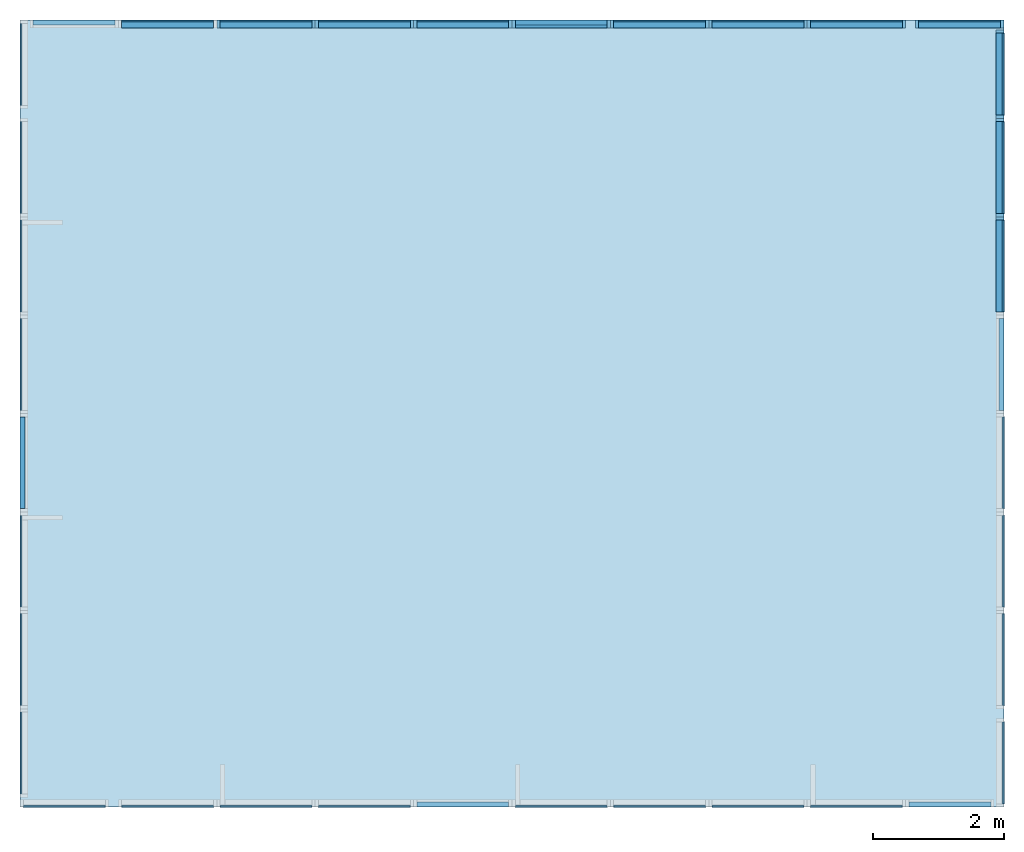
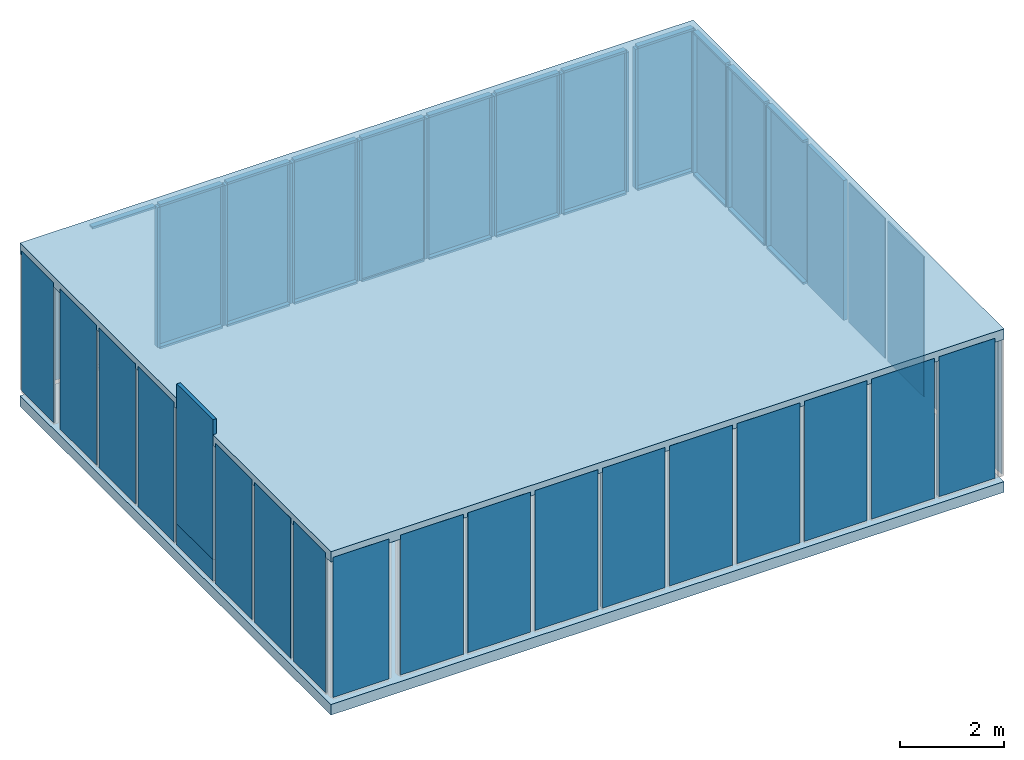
# One storey, part 2 of 2: 45 members, 37 plates, 2 slabs.
"""IFC4 building model written with IfcOpenShell, lengths in metres."""

from ifc_helpers import new_model, si_unit, frame, origin_with_axes, place, context, subcontext, project, spatial, indexed_curve, outline, extrude, material, element, save


model = new_model("IFC4")

# Units and contexts
model_context_1 = context("Model", 3, precision=1e-05, world=origin_with_axes())
model_context_2 = context("Model", 3, precision=1e-05, world=origin_with_axes())
body_context_1 = subcontext(model_context_1, "Body", "Model", "MODEL_VIEW")
body_context_2 = subcontext(model_context_2, "Body", "Model", "MODEL_VIEW")
ifc_project = project(units=[si_unit("AREAUNIT", "SQUARE_METRE"), si_unit("VOLUMEUNIT", "CUBIC_METRE"), si_unit("LENGTHUNIT", "METRE")], contexts=[model_context_1])

# Site, building, storey
site = spatial("IfcSite", under=ifc_project, Name="Synthetic Site")
building = spatial("IfcBuilding", under=site, Name="Complex Tower")
storey_placement = place(None, frame((0.0, 0.0, 41.4), z_axis=(0.0, 0.0, 1.0), x_axis=(1.0, 0.0, 0.0)))
storey = spatial("IfcBuildingStorey", under=building, at=storey_placement, Name="L12", Elevation=41.4)

# Members
ifc_material_1 = material(Name="Aluminium")
member_placement = place(storey_placement, frame((21.0, 11.950000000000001, 0.14999999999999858), z_axis=(0.0, 0.0, 1.0), x_axis=(6.123233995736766e-17, 1.0, 0.0)))
element("IfcMember", 1, at=member_placement, inside=storey, material=ifc_material_1, Name="CT-L12-E-006-MR", PredefinedType="MULLION", context=body_context_1, shape_type="SweptSolid", body=[
    extrude(outline(indexed_curve([(0.0, 0.0), (0.0, 0.12), (0.05, 0.12), (0.05, 0.0), (0.0, 0.0)], self_intersect=False)), origin_with_axes(), (0.0, 0.0, 1.0), 3.3000000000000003),
])
for number, where, z_axis, x_axis, name in (
    (2, (21.0, 10.55, 0.10000000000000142), (0.0, 0.0, 1.0), (6.123233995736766e-17, 1.0, 0.0), "CT-L12-E-006-FB"),
    (3, (21.0, 10.55, 3.4499999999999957), (0.0, 0.0, 1.0), (6.123233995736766e-17, 1.0, 0.0), "CT-L12-E-006-FT"),
):
    element("IfcMember", number, at=place(storey_placement, frame(where, z_axis=z_axis, x_axis=x_axis)), inside=storey, material=ifc_material_1, Name=name, PredefinedType="MULLION", context=body_context_1, shape_type="SweptSolid", body=[
        extrude(outline(indexed_curve([(0.0, 0.0), (0.0, 0.12), (1.4, 0.12), (1.4, 0.0), (0.0, 0.0)], self_intersect=False)), origin_with_axes(), (0.0, 0.0, 1.0), 0.05),
    ])
for number, where, z_axis, x_axis, name in (
    (4, (21.0, 12.0, 0.14999999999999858), (0.0, 0.0, 1.0), (6.123233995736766e-17, 1.0, 0.0), "CT-L12-E-007-ML"),
    (5, (21.0, 13.450000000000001, 0.14999999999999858), (0.0, 0.0, 1.0), (6.123233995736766e-17, 1.0, 0.0), "CT-L12-E-007-MR"),
):
    element("IfcMember", number, at=place(storey_placement, frame(where, z_axis=z_axis, x_axis=x_axis)), inside=storey, material=ifc_material_1, Name=name, PredefinedType="MULLION", context=body_context_1, shape_type="SweptSolid", body=[
        extrude(outline(indexed_curve([(0.0, 0.0), (0.0, 0.12), (0.05, 0.12), (0.05, 0.0), (0.0, 0.0)], self_intersect=False)), origin_with_axes(), (0.0, 0.0, 1.0), 3.3000000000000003),
    ])
for number, where, z_axis, x_axis, name in (
    (6, (21.0, 12.05, 0.10000000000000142), (0.0, 0.0, 1.0), (6.123233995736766e-17, 1.0, 0.0), "CT-L12-E-007-FB"),
    (7, (21.0, 12.05, 3.4499999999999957), (0.0, 0.0, 1.0), (6.123233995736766e-17, 1.0, 0.0), "CT-L12-E-007-FT"),
):
    element("IfcMember", number, at=place(storey_placement, frame(where, z_axis=z_axis, x_axis=x_axis)), inside=storey, material=ifc_material_1, Name=name, PredefinedType="MULLION", context=body_context_1, shape_type="SweptSolid", body=[
        extrude(outline(indexed_curve([(0.0, 0.0), (0.0, 0.12), (1.4, 0.12), (1.4, 0.0), (0.0, 0.0)], self_intersect=False)), origin_with_axes(), (0.0, 0.0, 1.0), 0.05),
    ])
for number, where, z_axis, x_axis, name in (
    (8, (21.0, 13.5, 0.14999999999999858), (0.0, 0.0, 1.0), (6.123233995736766e-17, 1.0, 0.0), "CT-L12-E-008-ML"),
    (9, (21.0, 14.8, 0.14999999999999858), (0.0, 0.0, 1.0), (6.123233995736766e-17, 1.0, 0.0), "CT-L12-E-008-MR"),
):
    element("IfcMember", number, at=place(storey_placement, frame(where, z_axis=z_axis, x_axis=x_axis)), inside=storey, material=ifc_material_1, Name=name, PredefinedType="MULLION", context=body_context_1, shape_type="SweptSolid", body=[
        extrude(outline(indexed_curve([(0.0, 0.0), (0.0, 0.12), (0.05, 0.12), (0.05, 0.0), (0.0, 0.0)], self_intersect=False)), origin_with_axes(), (0.0, 0.0, 1.0), 3.3000000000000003),
    ])
for number, where, z_axis, x_axis, name in (
    (10, (21.0, 13.55, 0.10000000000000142), (0.0, 0.0, 1.0), (6.123233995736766e-17, 1.0, 0.0), "CT-L12-E-008-FB"),
    (11, (21.0, 13.55, 3.4499999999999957), (0.0, 0.0, 1.0), (6.123233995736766e-17, 1.0, 0.0), "CT-L12-E-008-FT"),
):
    element("IfcMember", number, at=place(storey_placement, frame(where, z_axis=z_axis, x_axis=x_axis)), inside=storey, material=ifc_material_1, Name=name, PredefinedType="MULLION", context=body_context_1, shape_type="SweptSolid", body=[
        extrude(outline(indexed_curve([(0.0, 0.0), (0.0, 0.12), (1.25, 0.12), (1.25, 0.0), (0.0, 0.0)], self_intersect=False)), origin_with_axes(), (0.0, 0.0, 1.0), 0.05),
    ])
for number, where, z_axis, x_axis, name in (
    (12, (21.0, 15.0, 0.14999999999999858), (0.0, 0.0, 1.0), (-1.0, 1.2246467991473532e-16, 0.0), "CT-L12-N-001-ML"),
    (13, (19.7, 15.0, 0.14999999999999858), (0.0, 0.0, 1.0), (-1.0, 1.2246467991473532e-16, 0.0), "CT-L12-N-001-MR"),
):
    element("IfcMember", number, at=place(storey_placement, frame(where, z_axis=z_axis, x_axis=x_axis)), inside=storey, material=ifc_material_1, Name=name, PredefinedType="MULLION", context=body_context_1, shape_type="SweptSolid", body=[
        extrude(outline(indexed_curve([(0.0, 0.0), (0.0, 0.12), (0.05, 0.12), (0.05, 0.0), (0.0, 0.0)], self_intersect=False)), origin_with_axes(), (0.0, 0.0, 1.0), 3.3000000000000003),
    ])
for number, where, z_axis, x_axis, name in (
    (14, (20.95, 15.0, 0.10000000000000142), (0.0, 0.0, 1.0), (-1.0, 1.2246467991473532e-16, 0.0), "CT-L12-N-001-FB"),
    (15, (20.95, 15.0, 3.4499999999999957), (0.0, 0.0, 1.0), (-1.0, 1.2246467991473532e-16, 0.0), "CT-L12-N-001-FT"),
):
    element("IfcMember", number, at=place(storey_placement, frame(where, z_axis=z_axis, x_axis=x_axis)), inside=storey, material=ifc_material_1, Name=name, PredefinedType="MULLION", context=body_context_1, shape_type="SweptSolid", body=[
        extrude(outline(indexed_curve([(0.0, 0.0), (0.0, 0.12), (1.25, 0.12), (1.25, 0.0), (0.0, 0.0)], self_intersect=False)), origin_with_axes(), (0.0, 0.0, 1.0), 0.05),
    ])
for number, where, z_axis, x_axis, name in (
    (16, (19.5, 15.0, 0.14999999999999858), (0.0, 0.0, 1.0), (-1.0, 1.2246467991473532e-16, 0.0), "CT-L12-N-002-ML"),
    (17, (18.05, 15.0, 0.14999999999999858), (0.0, 0.0, 1.0), (-1.0, 1.2246467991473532e-16, 0.0), "CT-L12-N-002-MR"),
):
    element("IfcMember", number, at=place(storey_placement, frame(where, z_axis=z_axis, x_axis=x_axis)), inside=storey, material=ifc_material_1, Name=name, PredefinedType="MULLION", context=body_context_1, shape_type="SweptSolid", body=[
        extrude(outline(indexed_curve([(0.0, 0.0), (0.0, 0.12), (0.05, 0.12), (0.05, 0.0), (0.0, 0.0)], self_intersect=False)), origin_with_axes(), (0.0, 0.0, 1.0), 3.3000000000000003),
    ])
for number, where, z_axis, x_axis, name in (
    (18, (19.45, 15.0, 0.10000000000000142), (0.0, 0.0, 1.0), (-1.0, 1.2246467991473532e-16, 0.0), "CT-L12-N-002-FB"),
    (19, (19.45, 15.0, 3.4499999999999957), (0.0, 0.0, 1.0), (-1.0, 1.2246467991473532e-16, 0.0), "CT-L12-N-002-FT"),
):
    element("IfcMember", number, at=place(storey_placement, frame(where, z_axis=z_axis, x_axis=x_axis)), inside=storey, material=ifc_material_1, Name=name, PredefinedType="MULLION", context=body_context_1, shape_type="SweptSolid", body=[
        extrude(outline(indexed_curve([(0.0, 0.0), (0.0, 0.12), (1.4, 0.12), (1.4, 0.0), (0.0, 0.0)], self_intersect=False)), origin_with_axes(), (0.0, 0.0, 1.0), 0.05),
    ])
for number, where, z_axis, x_axis, name in (
    (20, (18.0, 15.0, 0.14999999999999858), (0.0, 0.0, 1.0), (-1.0, 1.2246467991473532e-16, 0.0), "CT-L12-N-003-ML"),
    (21, (16.55, 15.0, 0.14999999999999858), (0.0, 0.0, 1.0), (-1.0, 1.2246467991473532e-16, 0.0), "CT-L12-N-003-MR"),
):
    element("IfcMember", number, at=place(storey_placement, frame(where, z_axis=z_axis, x_axis=x_axis)), inside=storey, material=ifc_material_1, Name=name, PredefinedType="MULLION", context=body_context_1, shape_type="SweptSolid", body=[
        extrude(outline(indexed_curve([(0.0, 0.0), (0.0, 0.12), (0.05, 0.12), (0.05, 0.0), (0.0, 0.0)], self_intersect=False)), origin_with_axes(), (0.0, 0.0, 1.0), 3.3000000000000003),
    ])
for number, where, z_axis, x_axis, name in (
    (22, (17.95, 15.0, 0.10000000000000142), (0.0, 0.0, 1.0), (-1.0, 1.2246467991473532e-16, 0.0), "CT-L12-N-003-FB"),
    (23, (17.95, 15.0, 3.4499999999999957), (0.0, 0.0, 1.0), (-1.0, 1.2246467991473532e-16, 0.0), "CT-L12-N-003-FT"),
):
    element("IfcMember", number, at=place(storey_placement, frame(where, z_axis=z_axis, x_axis=x_axis)), inside=storey, material=ifc_material_1, Name=name, PredefinedType="MULLION", context=body_context_1, shape_type="SweptSolid", body=[
        extrude(outline(indexed_curve([(0.0, 0.0), (0.0, 0.12), (1.4, 0.12), (1.4, 0.0), (0.0, 0.0)], self_intersect=False)), origin_with_axes(), (0.0, 0.0, 1.0), 0.05),
    ])
for number, where, z_axis, x_axis, name in (
    (24, (16.5, 15.0, 0.14999999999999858), (0.0, 0.0, 1.0), (-1.0, 1.2246467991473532e-16, 0.0), "CT-L12-N-004-ML"),
    (25, (15.049999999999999, 15.0, 0.14999999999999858), (0.0, 0.0, 1.0), (-1.0, 1.2246467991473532e-16, 0.0), "CT-L12-N-004-MR"),
):
    element("IfcMember", number, at=place(storey_placement, frame(where, z_axis=z_axis, x_axis=x_axis)), inside=storey, material=ifc_material_1, Name=name, PredefinedType="MULLION", context=body_context_1, shape_type="SweptSolid", body=[
        extrude(outline(indexed_curve([(0.0, 0.0), (0.0, 0.12), (0.05, 0.12), (0.05, 0.0), (0.0, 0.0)], self_intersect=False)), origin_with_axes(), (0.0, 0.0, 1.0), 3.3000000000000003),
    ])
for number, where, z_axis, x_axis, name in (
    (26, (16.45, 15.0, 0.10000000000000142), (0.0, 0.0, 1.0), (-1.0, 1.2246467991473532e-16, 0.0), "CT-L12-N-004-FB"),
    (27, (16.45, 15.0, 3.4499999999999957), (0.0, 0.0, 1.0), (-1.0, 1.2246467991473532e-16, 0.0), "CT-L12-N-004-FT"),
):
    element("IfcMember", number, at=place(storey_placement, frame(where, z_axis=z_axis, x_axis=x_axis)), inside=storey, material=ifc_material_1, Name=name, PredefinedType="MULLION", context=body_context_1, shape_type="SweptSolid", body=[
        extrude(outline(indexed_curve([(0.0, 0.0), (0.0, 0.12), (1.4, 0.12), (1.4, 0.0), (0.0, 0.0)], self_intersect=False)), origin_with_axes(), (0.0, 0.0, 1.0), 0.05),
    ])
for number, where, z_axis, x_axis, name in (
    (28, (15.0, 15.0, 0.14999999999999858), (0.0, 0.0, 1.0), (-1.0, 1.2246467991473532e-16, 0.0), "CT-L12-N-005-ML"),
    (29, (13.549999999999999, 15.0, 0.14999999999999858), (0.0, 0.0, 1.0), (-1.0, 1.2246467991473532e-16, 0.0), "CT-L12-N-005-MR"),
):
    element("IfcMember", number, at=place(storey_placement, frame(where, z_axis=z_axis, x_axis=x_axis)), inside=storey, material=ifc_material_1, Name=name, PredefinedType="MULLION", context=body_context_1, shape_type="SweptSolid", body=[
        extrude(outline(indexed_curve([(0.0, 0.0), (0.0, 0.12), (0.05, 0.12), (0.05, 0.0), (0.0, 0.0)], self_intersect=False)), origin_with_axes(), (0.0, 0.0, 1.0), 3.3000000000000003),
    ])
for number, where, z_axis, x_axis, name in (
    (30, (14.95, 15.0, 0.10000000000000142), (0.0, 0.0, 1.0), (-1.0, 1.2246467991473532e-16, 0.0), "CT-L12-N-005-FB"),
    (31, (14.95, 15.0, 3.4499999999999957), (0.0, 0.0, 1.0), (-1.0, 1.2246467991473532e-16, 0.0), "CT-L12-N-005-FT"),
):
    element("IfcMember", number, at=place(storey_placement, frame(where, z_axis=z_axis, x_axis=x_axis)), inside=storey, material=ifc_material_1, Name=name, PredefinedType="MULLION", context=body_context_1, shape_type="SweptSolid", body=[
        extrude(outline(indexed_curve([(0.0, 0.0), (0.0, 0.12), (1.4, 0.12), (1.4, 0.0), (0.0, 0.0)], self_intersect=False)), origin_with_axes(), (0.0, 0.0, 1.0), 0.05),
    ])
for number, where, z_axis, x_axis, name in (
    (32, (13.5, 15.000000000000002, 0.14999999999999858), (0.0, 0.0, 1.0), (-1.0, 1.2246467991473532e-16, 0.0), "CT-L12-N-006-ML"),
    (33, (12.049999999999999, 15.000000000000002, 0.14999999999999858), (0.0, 0.0, 1.0), (-1.0, 1.2246467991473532e-16, 0.0), "CT-L12-N-006-MR"),
):
    element("IfcMember", number, at=place(storey_placement, frame(where, z_axis=z_axis, x_axis=x_axis)), inside=storey, material=ifc_material_1, Name=name, PredefinedType="MULLION", context=body_context_1, shape_type="SweptSolid", body=[
        extrude(outline(indexed_curve([(0.0, 0.0), (0.0, 0.12), (0.05, 0.12), (0.05, 0.0), (0.0, 0.0)], self_intersect=False)), origin_with_axes(), (0.0, 0.0, 1.0), 3.3000000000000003),
    ])
for number, where, z_axis, x_axis, name in (
    (34, (13.45, 15.000000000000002, 0.10000000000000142), (0.0, 0.0, 1.0), (-1.0, 1.2246467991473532e-16, 0.0), "CT-L12-N-006-FB"),
    (35, (13.45, 15.000000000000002, 3.4499999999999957), (0.0, 0.0, 1.0), (-1.0, 1.2246467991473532e-16, 0.0), "CT-L12-N-006-FT"),
):
    element("IfcMember", number, at=place(storey_placement, frame(where, z_axis=z_axis, x_axis=x_axis)), inside=storey, material=ifc_material_1, Name=name, PredefinedType="MULLION", context=body_context_1, shape_type="SweptSolid", body=[
        extrude(outline(indexed_curve([(0.0, 0.0), (0.0, 0.12), (1.4, 0.12), (1.4, 0.0), (0.0, 0.0)], self_intersect=False)), origin_with_axes(), (0.0, 0.0, 1.0), 0.05),
    ])
for number, where, z_axis, x_axis, name in (
    (36, (12.0, 15.000000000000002, 0.14999999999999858), (0.0, 0.0, 1.0), (-1.0, 1.2246467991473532e-16, 0.0), "CT-L12-N-007-ML"),
    (37, (10.549999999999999, 15.000000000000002, 0.14999999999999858), (0.0, 0.0, 1.0), (-1.0, 1.2246467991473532e-16, 0.0), "CT-L12-N-007-MR"),
):
    element("IfcMember", number, at=place(storey_placement, frame(where, z_axis=z_axis, x_axis=x_axis)), inside=storey, material=ifc_material_1, Name=name, PredefinedType="MULLION", context=body_context_1, shape_type="SweptSolid", body=[
        extrude(outline(indexed_curve([(0.0, 0.0), (0.0, 0.12), (0.05, 0.12), (0.05, 0.0), (0.0, 0.0)], self_intersect=False)), origin_with_axes(), (0.0, 0.0, 1.0), 3.3000000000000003),
    ])
for number, where, z_axis, x_axis, name in (
    (38, (11.95, 15.000000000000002, 0.10000000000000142), (0.0, 0.0, 1.0), (-1.0, 1.2246467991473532e-16, 0.0), "CT-L12-N-007-FB"),
    (39, (11.95, 15.000000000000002, 3.4499999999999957), (0.0, 0.0, 1.0), (-1.0, 1.2246467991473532e-16, 0.0), "CT-L12-N-007-FT"),
):
    element("IfcMember", number, at=place(storey_placement, frame(where, z_axis=z_axis, x_axis=x_axis)), inside=storey, material=ifc_material_1, Name=name, PredefinedType="MULLION", context=body_context_1, shape_type="SweptSolid", body=[
        extrude(outline(indexed_curve([(0.0, 0.0), (0.0, 0.12), (1.4, 0.12), (1.4, 0.0), (0.0, 0.0)], self_intersect=False)), origin_with_axes(), (0.0, 0.0, 1.0), 0.05),
    ])
for number, where, z_axis, x_axis, name in (
    (40, (10.5, 15.000000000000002, 0.14999999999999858), (0.0, 0.0, 1.0), (-1.0, 1.2246467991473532e-16, 0.0), "CT-L12-N-008-ML"),
    (41, (9.049999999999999, 15.000000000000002, 0.14999999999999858), (0.0, 0.0, 1.0), (-1.0, 1.2246467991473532e-16, 0.0), "CT-L12-N-008-MR"),
):
    element("IfcMember", number, at=place(storey_placement, frame(where, z_axis=z_axis, x_axis=x_axis)), inside=storey, material=ifc_material_1, Name=name, PredefinedType="MULLION", context=body_context_1, shape_type="SweptSolid", body=[
        extrude(outline(indexed_curve([(0.0, 0.0), (0.0, 0.12), (0.05, 0.12), (0.05, 0.0), (0.0, 0.0)], self_intersect=False)), origin_with_axes(), (0.0, 0.0, 1.0), 3.3000000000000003),
    ])
for number, where, z_axis, x_axis, name in (
    (42, (10.45, 15.000000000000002, 0.10000000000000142), (0.0, 0.0, 1.0), (-1.0, 1.2246467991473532e-16, 0.0), "CT-L12-N-008-FB"),
    (43, (10.45, 15.000000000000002, 3.4499999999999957), (0.0, 0.0, 1.0), (-1.0, 1.2246467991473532e-16, 0.0), "CT-L12-N-008-FT"),
    (44, (8.95, 15.000000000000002, 0.10000000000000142), (0.0, 0.0, 1.0), (-1.0, 1.2246467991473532e-16, 0.0), "CT-L12-N-009-FB"),
    (45, (8.95, 15.000000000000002, 3.4499999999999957), (0.0, 0.0, 1.0), (-1.0, 1.2246467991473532e-16, 0.0), "CT-L12-N-009-FT"),
):
    element("IfcMember", number, at=place(storey_placement, frame(where, z_axis=z_axis, x_axis=x_axis)), inside=storey, material=ifc_material_1, Name=name, PredefinedType="MULLION", context=body_context_1, shape_type="SweptSolid", body=[
        extrude(outline(indexed_curve([(0.0, 0.0), (0.0, 0.12), (1.4, 0.12), (1.4, 0.0), (0.0, 0.0)], self_intersect=False)), origin_with_axes(), (0.0, 0.0, 1.0), 0.05),
    ])

# Plates
ifc_material_2 = material(Name="Glass")
plate_1_placement = place(storey_placement, frame((6.05, 3.0, 0.14999999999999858), z_axis=(0.0, 0.0, 1.0), x_axis=(1.0, 0.0, 0.0)))
element("IfcPlate", 46, at=plate_1_placement, inside=storey, material=ifc_material_2, Name="CT-L12-S-001", PredefinedType="CURTAIN_PANEL", context=body_context_1, shape_type="SweptSolid", body=[
    extrude(outline(indexed_curve([(0.0, 0.0), (0.0, 0.028), (1.25, 0.028), (1.25, 0.0), (0.0, 0.0)], self_intersect=False)), origin_with_axes(), (0.0, 0.0, 1.0), 3.3000000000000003),
])
for number, where, z_axis, x_axis, name in (
    (47, (7.55, 3.0, 0.14999999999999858), (0.0, 0.0, 1.0), (1.0, 0.0, 0.0), "CT-L12-S-002"),
    (48, (9.05, 3.0, 0.14999999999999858), (0.0, 0.0, 1.0), (1.0, 0.0, 0.0), "CT-L12-S-003"),
    (49, (10.55, 3.0, 0.14999999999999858), (0.0, 0.0, 1.0), (1.0, 0.0, 0.0), "CT-L12-S-004"),
):
    element("IfcPlate", number, at=place(storey_placement, frame(where, z_axis=z_axis, x_axis=x_axis)), inside=storey, material=ifc_material_2, Name=name, PredefinedType="CURTAIN_PANEL", context=body_context_1, shape_type="SweptSolid", body=[
        extrude(outline(indexed_curve([(0.0, 0.0), (0.0, 0.028), (1.4, 0.028), (1.4, 0.0), (0.0, 0.0)], self_intersect=False)), origin_with_axes(), (0.0, 0.0, 1.0), 3.3000000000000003),
    ])
plate_2_placement = place(storey_placement, frame((12.05, 3.0, 0.14999999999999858), z_axis=(0.0, 0.0, 1.0), x_axis=(1.0, 0.0, 0.0)))
element("IfcPlate", 50, at=plate_2_placement, inside=storey, material=ifc_material_1, Name="CT-L12-S-005", PredefinedType="SHEET", context=body_context_1, shape_type="SweptSolid", body=[
    extrude(outline(indexed_curve([(0.0, 0.0), (0.0, 0.08), (1.4, 0.08), (1.4, 0.0), (0.0, 0.0)], self_intersect=False)), origin_with_axes(), (0.0, 0.0, 1.0), 3.3000000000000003),
])
for number, where, z_axis, x_axis, name in (
    (51, (13.55, 3.0, 0.14999999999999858), (0.0, 0.0, 1.0), (1.0, 0.0, 0.0), "CT-L12-S-006"),
    (52, (15.05, 3.0, 0.14999999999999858), (0.0, 0.0, 1.0), (1.0, 0.0, 0.0), "CT-L12-S-007"),
    (53, (16.55, 3.0, 0.14999999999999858), (0.0, 0.0, 1.0), (1.0, 0.0, 0.0), "CT-L12-S-008"),
    (54, (18.05, 3.0, 0.14999999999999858), (0.0, 0.0, 1.0), (1.0, 0.0, 0.0), "CT-L12-S-009"),
):
    element("IfcPlate", number, at=place(storey_placement, frame(where, z_axis=z_axis, x_axis=x_axis)), inside=storey, material=ifc_material_2, Name=name, PredefinedType="CURTAIN_PANEL", context=body_context_1, shape_type="SweptSolid", body=[
        extrude(outline(indexed_curve([(0.0, 0.0), (0.0, 0.028), (1.4, 0.028), (1.4, 0.0), (0.0, 0.0)], self_intersect=False)), origin_with_axes(), (0.0, 0.0, 1.0), 3.3000000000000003),
    ])
plate_3_placement = place(storey_placement, frame((19.55, 3.0, 0.14999999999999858), z_axis=(0.0, 0.0, 1.0), x_axis=(1.0, 0.0, 0.0)))
element("IfcPlate", 55, at=plate_3_placement, inside=storey, material=ifc_material_1, Name="CT-L12-S-010", PredefinedType="SHEET", context=body_context_1, shape_type="SweptSolid", body=[
    extrude(outline(indexed_curve([(0.0, 0.0), (0.0, 0.08), (1.25, 0.08), (1.25, 0.0), (0.0, 0.0)], self_intersect=False)), origin_with_axes(), (0.0, 0.0, 1.0), 3.3000000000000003),
])
plate_4_placement = place(storey_placement, frame((21.0, 3.05, 0.14999999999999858), z_axis=(0.0, 0.0, 1.0), x_axis=(6.123233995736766e-17, 1.0, 0.0)))
element("IfcPlate", 56, at=plate_4_placement, inside=storey, material=ifc_material_2, Name="CT-L12-E-001", PredefinedType="CURTAIN_PANEL", context=body_context_1, shape_type="SweptSolid", body=[
    extrude(outline(indexed_curve([(0.0, 0.0), (0.0, 0.028), (1.25, 0.028), (1.25, 0.0), (0.0, 0.0)], self_intersect=False)), origin_with_axes(), (0.0, 0.0, 1.0), 3.3000000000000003),
])
for number, where, z_axis, x_axis, name in (
    (57, (21.0, 4.55, 0.14999999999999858), (0.0, 0.0, 1.0), (6.123233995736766e-17, 1.0, 0.0), "CT-L12-E-002"),
    (58, (21.0, 6.05, 0.14999999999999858), (0.0, 0.0, 1.0), (6.123233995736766e-17, 1.0, 0.0), "CT-L12-E-003"),
    (59, (21.0, 7.55, 0.14999999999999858), (0.0, 0.0, 1.0), (6.123233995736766e-17, 1.0, 0.0), "CT-L12-E-004"),
):
    element("IfcPlate", number, at=place(storey_placement, frame(where, z_axis=z_axis, x_axis=x_axis)), inside=storey, material=ifc_material_2, Name=name, PredefinedType="CURTAIN_PANEL", context=body_context_1, shape_type="SweptSolid", body=[
        extrude(outline(indexed_curve([(0.0, 0.0), (0.0, 0.028), (1.4, 0.028), (1.4, 0.0), (0.0, 0.0)], self_intersect=False)), origin_with_axes(), (0.0, 0.0, 1.0), 3.3000000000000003),
    ])
plate_5_placement = place(storey_placement, frame((21.0, 9.05, 0.14999999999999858), z_axis=(0.0, 0.0, 1.0), x_axis=(6.123233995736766e-17, 1.0, 0.0)))
element("IfcPlate", 60, at=plate_5_placement, inside=storey, material=ifc_material_1, Name="CT-L12-E-005", PredefinedType="SHEET", context=body_context_1, shape_type="SweptSolid", body=[
    extrude(outline(indexed_curve([(0.0, 0.0), (0.0, 0.08), (1.4, 0.08), (1.4, 0.0), (0.0, 0.0)], self_intersect=False)), origin_with_axes(), (0.0, 0.0, 1.0), 3.3000000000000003),
])
for number, where, z_axis, x_axis, name in (
    (61, (21.0, 10.55, 0.14999999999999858), (0.0, 0.0, 1.0), (6.123233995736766e-17, 1.0, 0.0), "CT-L12-E-006"),
    (62, (21.0, 12.05, 0.14999999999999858), (0.0, 0.0, 1.0), (6.123233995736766e-17, 1.0, 0.0), "CT-L12-E-007"),
):
    element("IfcPlate", number, at=place(storey_placement, frame(where, z_axis=z_axis, x_axis=x_axis)), inside=storey, material=ifc_material_2, Name=name, PredefinedType="CURTAIN_PANEL", context=body_context_1, shape_type="SweptSolid", body=[
        extrude(outline(indexed_curve([(0.0, 0.0), (0.0, 0.028), (1.4, 0.028), (1.4, 0.0), (0.0, 0.0)], self_intersect=False)), origin_with_axes(), (0.0, 0.0, 1.0), 3.3000000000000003),
    ])
for number, where, z_axis, x_axis, name in (
    (63, (21.0, 13.55, 0.14999999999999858), (0.0, 0.0, 1.0), (6.123233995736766e-17, 1.0, 0.0), "CT-L12-E-008"),
    (64, (20.95, 15.0, 0.14999999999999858), (0.0, 0.0, 1.0), (-1.0, 1.2246467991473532e-16, 0.0), "CT-L12-N-001"),
):
    element("IfcPlate", number, at=place(storey_placement, frame(where, z_axis=z_axis, x_axis=x_axis)), inside=storey, material=ifc_material_2, Name=name, PredefinedType="CURTAIN_PANEL", context=body_context_1, shape_type="SweptSolid", body=[
        extrude(outline(indexed_curve([(0.0, 0.0), (0.0, 0.028), (1.25, 0.028), (1.25, 0.0), (0.0, 0.0)], self_intersect=False)), origin_with_axes(), (0.0, 0.0, 1.0), 3.3000000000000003),
    ])
for number, where, z_axis, x_axis, name in (
    (65, (19.45, 15.0, 0.14999999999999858), (0.0, 0.0, 1.0), (-1.0, 1.2246467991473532e-16, 0.0), "CT-L12-N-002"),
    (66, (17.95, 15.0, 0.14999999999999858), (0.0, 0.0, 1.0), (-1.0, 1.2246467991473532e-16, 0.0), "CT-L12-N-003"),
    (67, (16.45, 15.0, 0.14999999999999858), (0.0, 0.0, 1.0), (-1.0, 1.2246467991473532e-16, 0.0), "CT-L12-N-004"),
):
    element("IfcPlate", number, at=place(storey_placement, frame(where, z_axis=z_axis, x_axis=x_axis)), inside=storey, material=ifc_material_2, Name=name, PredefinedType="CURTAIN_PANEL", context=body_context_1, shape_type="SweptSolid", body=[
        extrude(outline(indexed_curve([(0.0, 0.0), (0.0, 0.028), (1.4, 0.028), (1.4, 0.0), (0.0, 0.0)], self_intersect=False)), origin_with_axes(), (0.0, 0.0, 1.0), 3.3000000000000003),
    ])
plate_6_placement = place(storey_placement, frame((14.95, 15.0, 0.14999999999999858), z_axis=(0.0, 0.0, 1.0), x_axis=(-1.0, 1.2246467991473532e-16, 0.0)))
element("IfcPlate", 68, at=plate_6_placement, inside=storey, material=ifc_material_1, Name="CT-L12-N-005", PredefinedType="SHEET", context=body_context_1, shape_type="SweptSolid", body=[
    extrude(outline(indexed_curve([(0.0, 0.0), (0.0, 0.08), (1.4, 0.08), (1.4, 0.0), (0.0, 0.0)], self_intersect=False)), origin_with_axes(), (0.0, 0.0, 1.0), 3.3000000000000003),
])
for number, where, z_axis, x_axis, name in (
    (69, (13.45, 15.000000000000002, 0.14999999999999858), (0.0, 0.0, 1.0), (-1.0, 1.2246467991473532e-16, 0.0), "CT-L12-N-006"),
    (70, (11.95, 15.000000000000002, 0.14999999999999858), (0.0, 0.0, 1.0), (-1.0, 1.2246467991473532e-16, 0.0), "CT-L12-N-007"),
    (71, (10.45, 15.000000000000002, 0.14999999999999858), (0.0, 0.0, 1.0), (-1.0, 1.2246467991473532e-16, 0.0), "CT-L12-N-008"),
    (72, (8.95, 15.000000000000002, 0.14999999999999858), (0.0, 0.0, 1.0), (-1.0, 1.2246467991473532e-16, 0.0), "CT-L12-N-009"),
):
    element("IfcPlate", number, at=place(storey_placement, frame(where, z_axis=z_axis, x_axis=x_axis)), inside=storey, material=ifc_material_2, Name=name, PredefinedType="CURTAIN_PANEL", context=body_context_1, shape_type="SweptSolid", body=[
        extrude(outline(indexed_curve([(0.0, 0.0), (0.0, 0.028), (1.4, 0.028), (1.4, 0.0), (0.0, 0.0)], self_intersect=False)), origin_with_axes(), (0.0, 0.0, 1.0), 3.3000000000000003),
    ])
plate_7_placement = place(storey_placement, frame((7.449999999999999, 15.000000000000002, 0.14999999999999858), z_axis=(0.0, 0.0, 1.0), x_axis=(-1.0, 1.2246467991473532e-16, 0.0)))
element("IfcPlate", 73, at=plate_7_placement, inside=storey, material=ifc_material_1, Name="CT-L12-N-010", PredefinedType="SHEET", context=body_context_1, shape_type="SweptSolid", body=[
    extrude(outline(indexed_curve([(0.0, 0.0), (0.0, 0.08), (1.25, 0.08), (1.25, 0.0), (0.0, 0.0)], self_intersect=False)), origin_with_axes(), (0.0, 0.0, 1.0), 3.3000000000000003),
])
plate_8_placement = place(storey_placement, frame((6.0, 14.95, 0.14999999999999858), z_axis=(0.0, 0.0, 1.0), x_axis=(-1.8369701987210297e-16, -1.0, 0.0)))
element("IfcPlate", 74, at=plate_8_placement, inside=storey, material=ifc_material_2, Name="CT-L12-W-001", PredefinedType="CURTAIN_PANEL", context=body_context_1, shape_type="SweptSolid", body=[
    extrude(outline(indexed_curve([(0.0, 0.0), (0.0, 0.028), (1.25, 0.028), (1.25, 0.0), (0.0, 0.0)], self_intersect=False)), origin_with_axes(), (0.0, 0.0, 1.0), 3.3000000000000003),
])
for number, where, z_axis, x_axis, name in (
    (75, (6.0, 13.45, 0.14999999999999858), (0.0, 0.0, 1.0), (-1.8369701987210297e-16, -1.0, 0.0), "CT-L12-W-002"),
    (76, (5.999999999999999, 11.95, 0.14999999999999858), (0.0, 0.0, 1.0), (-1.8369701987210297e-16, -1.0, 0.0), "CT-L12-W-003"),
    (77, (5.999999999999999, 10.45, 0.14999999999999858), (0.0, 0.0, 1.0), (-1.8369701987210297e-16, -1.0, 0.0), "CT-L12-W-004"),
):
    element("IfcPlate", number, at=place(storey_placement, frame(where, z_axis=z_axis, x_axis=x_axis)), inside=storey, material=ifc_material_2, Name=name, PredefinedType="CURTAIN_PANEL", context=body_context_1, shape_type="SweptSolid", body=[
        extrude(outline(indexed_curve([(0.0, 0.0), (0.0, 0.028), (1.4, 0.028), (1.4, 0.0), (0.0, 0.0)], self_intersect=False)), origin_with_axes(), (0.0, 0.0, 1.0), 3.3000000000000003),
    ])
plate_9_placement = place(storey_placement, frame((5.999999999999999, 8.95, 0.14999999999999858), z_axis=(0.0, 0.0, 1.0), x_axis=(-1.8369701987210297e-16, -1.0, 0.0)))
element("IfcPlate", 78, at=plate_9_placement, inside=storey, material=ifc_material_1, Name="CT-L12-W-005", PredefinedType="SHEET", context=body_context_1, shape_type="SweptSolid", body=[
    extrude(outline(indexed_curve([(0.0, 0.0), (0.0, 0.08), (1.4, 0.08), (1.4, 0.0), (0.0, 0.0)], self_intersect=False)), origin_with_axes(), (0.0, 0.0, 1.0), 3.3000000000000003),
])
for number, where, z_axis, x_axis, name in (
    (79, (5.999999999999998, 7.45, 0.14999999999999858), (0.0, 0.0, 1.0), (-1.8369701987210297e-16, -1.0, 0.0), "CT-L12-W-006"),
    (80, (5.999999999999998, 5.949999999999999, 0.14999999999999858), (0.0, 0.0, 1.0), (-1.8369701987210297e-16, -1.0, 0.0), "CT-L12-W-007"),
):
    element("IfcPlate", number, at=place(storey_placement, frame(where, z_axis=z_axis, x_axis=x_axis)), inside=storey, material=ifc_material_2, Name=name, PredefinedType="CURTAIN_PANEL", context=body_context_1, shape_type="SweptSolid", body=[
        extrude(outline(indexed_curve([(0.0, 0.0), (0.0, 0.028), (1.4, 0.028), (1.4, 0.0), (0.0, 0.0)], self_intersect=False)), origin_with_axes(), (0.0, 0.0, 1.0), 3.3000000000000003),
    ])
plate_10_placement = place(storey_placement, frame((5.999999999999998, 4.449999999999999, 0.14999999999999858), z_axis=(0.0, 0.0, 1.0), x_axis=(-1.8369701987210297e-16, -1.0, 0.0)))
element("IfcPlate", 81, at=plate_10_placement, inside=storey, material=ifc_material_2, Name="CT-L12-W-008", PredefinedType="CURTAIN_PANEL", context=body_context_1, shape_type="SweptSolid", body=[
    extrude(outline(indexed_curve([(0.0, 0.0), (0.0, 0.028), (1.25, 0.028), (1.25, 0.0), (0.0, 0.0)], self_intersect=False)), origin_with_axes(), (0.0, 0.0, 1.0), 3.3000000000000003),
])

# Slabs
ifc_material_3 = material(Name="Concrete")
slab_1_placement = place(storey_placement, frame((6.0, 3.0, -0.25), z_axis=(0.0, 0.0, 1.0), x_axis=(1.0, 0.0, 0.0)))
element("IfcSlab", 82, at=slab_1_placement, inside=storey, material=ifc_material_3, Name="CT-SLAB-12", PredefinedType="FLOOR", context=body_context_1, shape_type="SweptSolid", body=[
    extrude(outline(indexed_curve([(0.0, 0.0), (0.0, 12.0), (15.0, 12.0), (15.0, 0.0), (0.0, 0.0)], self_intersect=False)), origin_with_axes(), (0.0, 0.0, 1.0), 0.25),
])
slab_2_placement = place(storey_placement, frame((6.0, 3.0, 3.3500000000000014), z_axis=(0.0, 0.0, 1.0), x_axis=(1.0, 0.0, 0.0)))
element("IfcSlab", 83, at=slab_2_placement, inside=storey, material=ifc_material_3, Name="CT-ROOF", PredefinedType="ROOF", context=body_context_1, shape_type="SweptSolid", body=[
    extrude(outline(indexed_curve([(0.0, 0.0), (0.0, 12.0), (15.0, 12.0), (15.0, 0.0), (0.0, 0.0)], self_intersect=False)), origin_with_axes(), (0.0, 0.0, 1.0), 0.25),
])

# Plate
plate_11_placement = place(storey_placement, frame((5.999999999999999, 8.95, 0.6499999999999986), z_axis=(0.0, 0.0, 1.0), x_axis=(-1.8369701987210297e-16, -1.0, 0.0)))
element("IfcPlate", 84, at=plate_11_placement, inside=storey, material=ifc_material_1, Name="CT-L12-W-NEW", PredefinedType="SHEET", context=body_context_2, shape_type="SweptSolid", body=[
    extrude(outline(indexed_curve([(0.0, 0.0), (0.0, 0.08), (1.4, 0.08), (1.4, 0.0), (0.0, 0.0)], self_intersect=False)), origin_with_axes(), (0.0, 0.0, 1.0), 3.3000000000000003),
])

save(model, "model.ifc")
